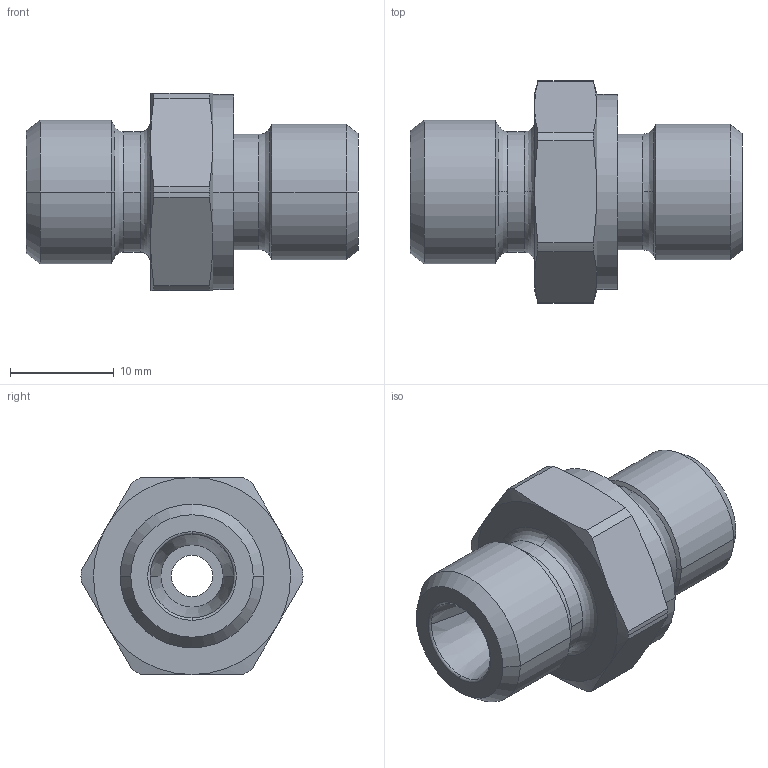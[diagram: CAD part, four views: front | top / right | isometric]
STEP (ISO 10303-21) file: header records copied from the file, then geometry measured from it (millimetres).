
FILE_DESCRIPTION((''),'2;1');
FILE_NAME('100514.stp','2007-10-30T14:16:42',(''),(''),'AutoCAD STEP 2000i','AutoCAD 2000i',', , ');
FILE_SCHEMA(('CONFIG_CONTROL_DESIGN'));
Length unit declared in the file: millimetre
Products named in the file (2): 100514.0; CHIAVE SMUSSATA#0
Assembly tree (1 placements, depth 2):
  100514.0
    CHIAVE SMUSSATA#0
Bounding box: 32 x 21.4 x 19 mm (x, y, z)
Volume: 4746.3 mm3; surface area: 2639.8 mm2
Topology: 1 solids, 1 shells, 75 faces, 185 edges, 117 vertices
Faces by surface type: cylinder 24, cone 24, plane 13, bspline 12, torus 2
Entity records: 2835 total; most frequent: CARTESIAN_POINT 955, DIRECTION 410, ORIENTED_EDGE 370, EDGE_CURVE 185, AXIS2_PLACEMENT_3D 184, CIRCLE 119, VERTEX_POINT 117, EDGE_LOOP 82
